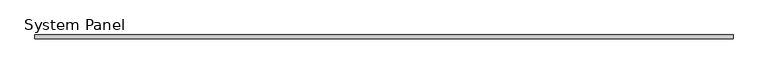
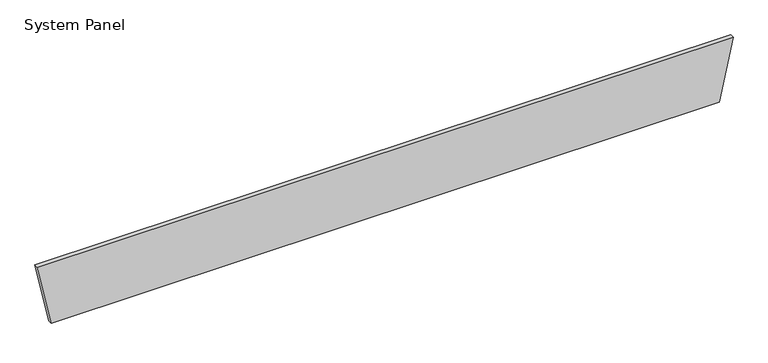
"""IFC4 building model written with IfcOpenShell, lengths in millimetres: plate geometry, System Panel : Equitilt_75mm_Plain_Surfmist."""

from ifc_helpers import new_model, si_unit, frame, origin, place, context, project, spatial, polyline, outline, extrude, source, transform, mapped, element, save


def system_panel_9cd49ddd(model_context):
    return source(origin(), model_context, "Body", "SweptSolid", [
        extrude(outline(polyline([(0.0, -6260.8716619), (0.0, 6260.8716619), (1200.0, 6521.7433237), (1200.0, -6521.7433237), (0.0, -6260.8716619)])), frame((0.0, -75.0, 0.0), z_axis=(0.0, 1.0, 0.0), x_axis=(0.0, 0.0, 1.0)), (0.0, 0.0, 1.0), 75.0),
    ])


if __name__ == "__main__":
    model = new_model("IFC4")
    model_context = context("Model", 3, world=origin())
    ifc_project = project(units=[si_unit("LENGTHUNIT", "METRE", prefix="MILLI")], contexts=[model_context])
    site = spatial("IfcSite", under=ifc_project)
    building = spatial("IfcBuilding", under=site)
    placement = place(None, origin())
    system_panel_shape = system_panel_9cd49ddd(model_context)
    element("IfcPlate", 1, ObjectType="System Panel : Equitilt_75mm_Plain_Surfmist", at=placement, inside=building, context=model_context, shape_type="MappedRepresentation", body=[
        mapped(system_panel_shape, transform((0.0, 0.0, 0.0), x_axis=(1.0, 0.0, 0.0), y_axis=(0.0, 1.0, 0.0), z_axis=(0.0, 0.0, 1.0))),
    ])
    save(model, "model.ifc")
